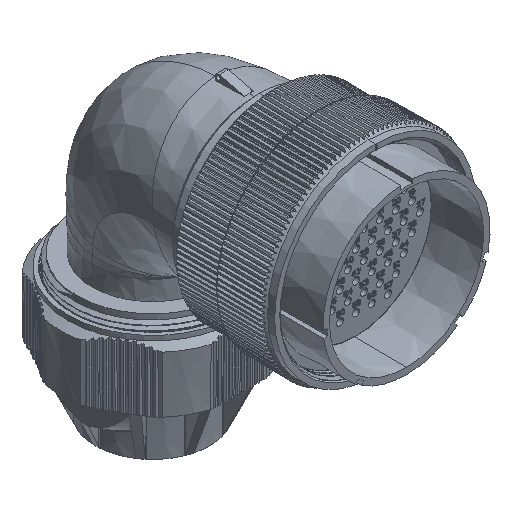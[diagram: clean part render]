
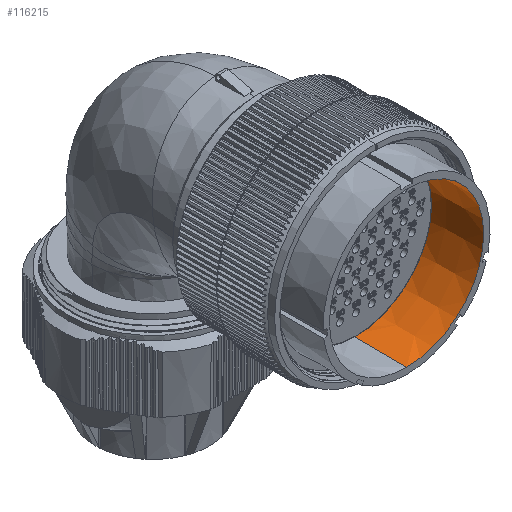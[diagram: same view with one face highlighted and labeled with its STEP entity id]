
A CAD part, isometric view. The second image highlights one B-rep face of the part: STEP entity #116215.
In plain terms, the highlighted conical face has half-angle 0.483 degrees and reference radius 24.025 mm.
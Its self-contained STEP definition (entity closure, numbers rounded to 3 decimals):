
#6542=CARTESIAN_POINT('',(0.,-30.045,32.639));
#6543=DIRECTION('',(0.,1.,0.));
#6544=DIRECTION('',(0.,0.,1.));
#6545=AXIS2_PLACEMENT_3D('',#6542,#6543,#6544);
#6583=CARTESIAN_POINT('',(0.,-30.045,32.639));
#6584=DIRECTION('',(0.,1.,0.));
#6585=DIRECTION('',(0.05,0.,0.999));
#6586=AXIS2_PLACEMENT_3D('',#6583,#6584,#6585);
#6593=DIRECTION('',(0.,-1.,-0.008));
#6594=VECTOR('',#6593,17.201);
#6595=CARTESIAN_POINT('',(0.,-30.045,
8.687));
#6596=LINE('',#6595,#6594);
#6597=DIRECTION('',(0.,1.,-0.008));
#6598=VECTOR('',#6597,17.201);
#6599=CARTESIAN_POINT('',(0.,-47.245,56.737));
#6600=LINE('',#6599,#6598);
#6688=CARTESIAN_POINT('',(0.,-47.245,32.639));
#6689=DIRECTION('',(0.,-1.,0.));
#6690=DIRECTION('',(0.,0.,-1.));
#6691=AXIS2_PLACEMENT_3D('',#6688,#6689,#6690);
#90406=CARTESIAN_POINT('',(0.,-47.245,8.542));
#90407=CARTESIAN_POINT('',(0.,-47.245,56.737));
#90408=VERTEX_POINT('',#90406);
#90409=VERTEX_POINT('',#90407);
#90414=CARTESIAN_POINT('',(0.,-30.045,56.592));
#90415=VERTEX_POINT('',#90414);
#107311=CARTESIAN_POINT('',(1.2,-30.045,56.562));
#107312=CARTESIAN_POINT('',(0.,-30.045,
8.687));
#107313=VERTEX_POINT('',#107311);
#107314=VERTEX_POINT('',#107312);
#116200=CARTESIAN_POINT('',(0.,-38.645,32.639));
#116201=DIRECTION('',(0.,-1.,0.));
#116202=DIRECTION('',(0.,0.,1.));
#116203=AXIS2_PLACEMENT_3D('',#116200,#116201,#116202);
#116204=CONICAL_SURFACE('',#116203,24.025,0.483);
#116205=ORIENTED_EDGE('',*,*,#116188,.F.);
#116206=ORIENTED_EDGE('',*,*,#116144,.F.);
#116208=ORIENTED_EDGE('',*,*,#116207,.F.);
#116210=ORIENTED_EDGE('',*,*,#116209,.F.);
#116212=ORIENTED_EDGE('',*,*,#116211,.F.);
#116213=EDGE_LOOP('',(#116205,#116206,#116208,#116210,#116212));
#116214=FACE_OUTER_BOUND('',#116213,.F.);
#116215=ADVANCED_FACE('',(#116214),#116204,.F.);
#6546=CIRCLE('',#6545,23.953);
#6587=CIRCLE('',#6586,23.953);
#6692=CIRCLE('',#6691,24.097);
#116144=EDGE_CURVE('',#90415,#107313,#6546,.T.);
#116188=EDGE_CURVE('',#107313,#107314,#6587,.T.);
#116207=EDGE_CURVE('',#90409,#90415,#6600,.T.);
#116209=EDGE_CURVE('',#90408,#90409,#6692,.T.);
#116211=EDGE_CURVE('',#107314,#90408,#6596,.T.);
